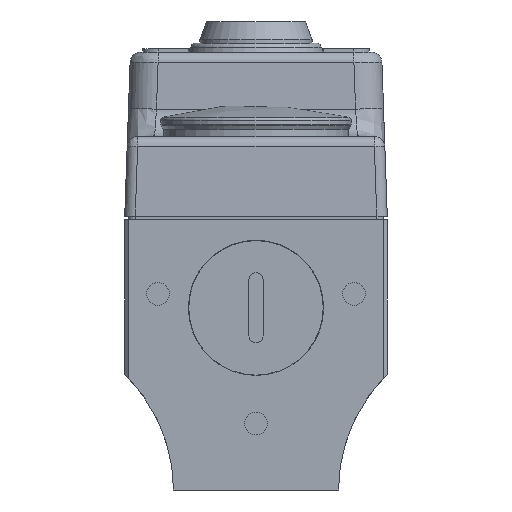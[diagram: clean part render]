
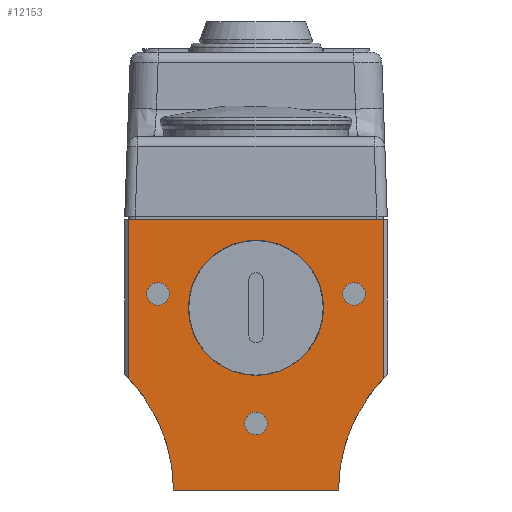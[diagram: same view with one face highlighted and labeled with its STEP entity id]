
A CAD part, left-side view. The second image highlights one B-rep face of the part: STEP entity #12153.
In plain terms, the highlighted planar face has unit normal (-1, 0, 0).
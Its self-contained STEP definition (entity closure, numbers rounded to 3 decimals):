
#1550=LINE('',#20338,#2723);
#1559=LINE('',#20356,#2732);
#1560=LINE('',#20359,#2733);
#1561=LINE('',#20363,#2734);
#2723=VECTOR('',#14936,36.5);
#2732=VECTOR('',#14951,22.601);
#2733=VECTOR('',#14954,22.601);
#2734=VECTOR('',#14957,23.547);
#2975=FACE_BOUND('',#4304,.T.);
#2976=FACE_BOUND('',#4305,.T.);
#2977=FACE_BOUND('',#4306,.T.);
#2978=FACE_BOUND('',#4307,.T.);
#3577=FACE_OUTER_BOUND('',#4303,.T.);
#4303=EDGE_LOOP('',(#10082,#10083,#10084,#10085,#10086,#10087));
#4304=EDGE_LOOP('',(#10088));
#4305=EDGE_LOOP('',(#10089));
#4306=EDGE_LOOP('',(#10090));
#4307=EDGE_LOOP('',(#10091));
#4481=CIRCLE('',#12343,9.65);
#4529=CIRCLE('',#12755,23.);
#4530=CIRCLE('',#12756,23.);
#4531=CIRCLE('',#12757,1.621);
#4532=CIRCLE('',#12758,1.621);
#4533=CIRCLE('',#12759,1.621);
#4644=VERTEX_POINT('',#15571);
#5555=VERTEX_POINT('',#20335);
#5556=VERTEX_POINT('',#20337);
#5562=VERTEX_POINT('',#20354);
#5563=VERTEX_POINT('',#20358);
#5564=VERTEX_POINT('',#20360);
#5565=VERTEX_POINT('',#20362);
#5566=VERTEX_POINT('',#20365);
#5567=VERTEX_POINT('',#20367);
#5568=VERTEX_POINT('',#20369);
#5748=EDGE_CURVE('',#4644,#4644,#4481,.T.);
#7104=EDGE_CURVE('',#5556,#5555,#1550,.T.);
#7114=EDGE_CURVE('',#5556,#5562,#1559,.T.);
#7115=EDGE_CURVE('',#5563,#5555,#1560,.T.);
#7116=EDGE_CURVE('',#5563,#5564,#4529,.T.);
#7117=EDGE_CURVE('',#5564,#5565,#1561,.T.);
#7118=EDGE_CURVE('',#5565,#5562,#4530,.T.);
#7119=EDGE_CURVE('',#5566,#5566,#4531,.T.);
#7120=EDGE_CURVE('',#5567,#5567,#4532,.T.);
#7121=EDGE_CURVE('',#5568,#5568,#4533,.T.);
#10082=ORIENTED_EDGE('',*,*,#7114,.F.);
#10083=ORIENTED_EDGE('',*,*,#7104,.T.);
#10084=ORIENTED_EDGE('',*,*,#7115,.F.);
#10085=ORIENTED_EDGE('',*,*,#7116,.T.);
#10086=ORIENTED_EDGE('',*,*,#7117,.T.);
#10087=ORIENTED_EDGE('',*,*,#7118,.T.);
#10088=ORIENTED_EDGE('',*,*,#7119,.T.);
#10089=ORIENTED_EDGE('',*,*,#5748,.T.);
#10090=ORIENTED_EDGE('',*,*,#7120,.T.);
#10091=ORIENTED_EDGE('',*,*,#7121,.T.);
#10924=PLANE('',#12754);
#12153=ADVANCED_FACE('',(#3577,#2975,#2976,#2977,#2978),#10924,.T.);
#12343=AXIS2_PLACEMENT_3D('',#15572,#13102,#13103);
#12754=AXIS2_PLACEMENT_3D('',#20357,#14952,#14953);
#12755=AXIS2_PLACEMENT_3D('',#20361,#14955,#14956);
#12756=AXIS2_PLACEMENT_3D('',#20364,#14958,#14959);
#12757=AXIS2_PLACEMENT_3D('',#20366,#14960,#14961);
#12758=AXIS2_PLACEMENT_3D('',#20368,#14962,#14963);
#12759=AXIS2_PLACEMENT_3D('',#20370,#14964,#14965);
#13102=DIRECTION('center_axis',(1.,0.,0.));
#13103=DIRECTION('ref_axis',(0.,-1.,0.));
#14936=DIRECTION('',(0.,1.,0.));
#14951=DIRECTION('',(0.,0.,-1.));
#14952=DIRECTION('center_axis',(-1.,0.,0.));
#14953=DIRECTION('ref_axis',(0.,0.,-1.));
#14954=DIRECTION('',(0.,0.,1.));
#14955=DIRECTION('center_axis',(1.,0.,0.));
#14956=DIRECTION('ref_axis',(0.,1.,0.));
#14957=DIRECTION('',(0.,-1.,0.));
#14958=DIRECTION('center_axis',(1.,0.,0.));
#14959=DIRECTION('ref_axis',(0.,1.,0.));
#14960=DIRECTION('center_axis',(1.,0.,0.));
#14961=DIRECTION('ref_axis',(0.,0.,
1.));
#14962=DIRECTION('center_axis',(1.,0.,0.));
#14963=DIRECTION('ref_axis',(0.,-1.,0.));
#14964=DIRECTION('center_axis',(1.,0.,0.));
#14965=DIRECTION('ref_axis',(0.,-1.,0.));
#15571=CARTESIAN_POINT('',(-83.598,-96.894,-108.478));
#15572=CARTESIAN_POINT('Origin',(-83.598,-87.244,-108.478));
#20335=CARTESIAN_POINT('',(-83.598,-68.994,-95.878));
#20337=CARTESIAN_POINT('',(-83.598,-105.494,-95.878));
#20338=CARTESIAN_POINT('',(-83.598,-105.994,-95.878));
#20354=CARTESIAN_POINT('',(-83.598,-105.494,-118.479));
#20356=CARTESIAN_POINT('',(-83.598,-105.494,-95.878));
#20357=CARTESIAN_POINT('Origin',(-83.598,-68.494,-95.878));
#20358=CARTESIAN_POINT('',(-83.598,-68.994,-118.479));
#20359=CARTESIAN_POINT('',(-83.598,-68.994,-95.878));
#20360=CARTESIAN_POINT('',(-83.598,-75.471,-134.478));
#20361=CARTESIAN_POINT('Origin',(-83.598,-52.471,-134.478));
#20362=CARTESIAN_POINT('',(-83.598,-99.017,-134.478));
#20363=CARTESIAN_POINT('',(-83.598,-105.994,-134.478));
#20364=CARTESIAN_POINT('Origin',(-83.598,-122.017,-134.478));
#20365=CARTESIAN_POINT('',(-83.598,-87.244,-123.357));
#20366=CARTESIAN_POINT('Origin',(-83.598,-87.244,-124.978));
#20367=CARTESIAN_POINT('',(-83.598,-74.865,-106.478));
#20368=CARTESIAN_POINT('Origin',(-83.598,-73.244,-106.478));
#20369=CARTESIAN_POINT('',(-83.598,-102.865,-106.478));
#20370=CARTESIAN_POINT('Origin',(-83.598,-101.244,-106.478));
